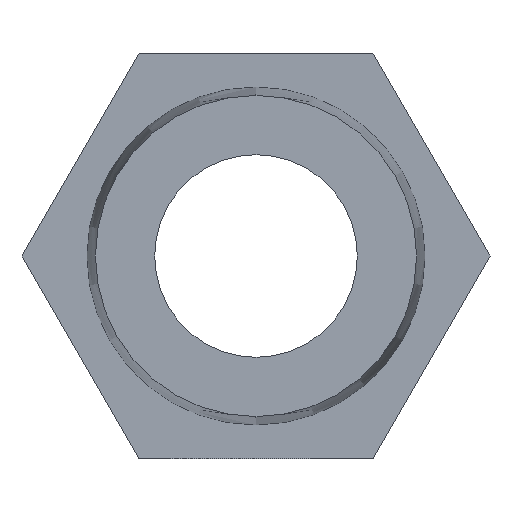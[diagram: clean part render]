
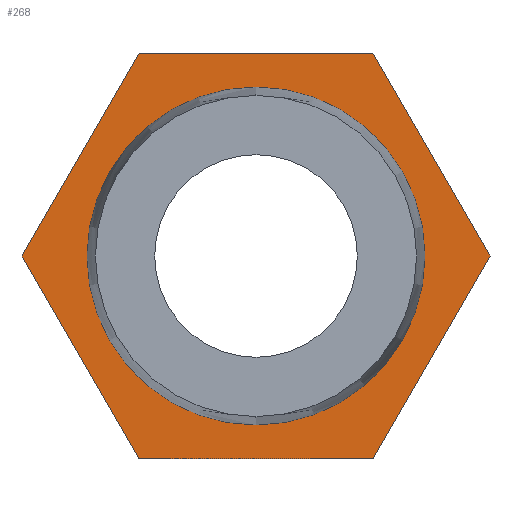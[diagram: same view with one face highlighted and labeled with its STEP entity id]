
A CAD part, front view. The second image highlights one B-rep face of the part: STEP entity #268.
In plain terms, the highlighted planar face has unit normal (0, -1, 0).
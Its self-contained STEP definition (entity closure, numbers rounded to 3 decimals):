
#3 = AXIS2_PLACEMENT_3D ( 'NONE', #528, #795, #290 ) ;
#6 = VERTEX_POINT ( 'NONE', #632 ) ;
#10 = FACE_BOUND ( 'NONE', #827, .T. ) ;
#38 = DIRECTION ( 'NONE',  ( 0., 0., 1. ) ) ;
#92 = ORIENTED_EDGE ( 'NONE', *, *, #823, .F. ) ;
#93 = CARTESIAN_POINT ( 'NONE',  ( -3.464, 4., 6. ) ) ;
#121 = VECTOR ( 'NONE', #1031, 1000. ) ;
#122 = VERTEX_POINT ( 'NONE', #322 ) ;
#128 = LINE ( 'NONE', #293, #652 ) ;
#129 = DIRECTION ( 'NONE',  ( 0.5, 0., 0.866 ) ) ;
#150 = VERTEX_POINT ( 'NONE', #1116 ) ;
#170 = VERTEX_POINT ( 'NONE', #656 ) ;
#212 = VECTOR ( 'NONE', #995, 1000. ) ;
#249 = VECTOR ( 'NONE', #313, 1000. ) ;
#268 = ADVANCED_FACE ( 'NONE', ( #10, #1056 ), #275, .F. ) ;
#275 = PLANE ( 'NONE',  #1102 ) ;
#277 = EDGE_LOOP ( 'NONE', ( #92, #412, #1055, #395, #417, #441 ) ) ;
#290 = DIRECTION ( 'NONE',  ( 0., 0., 1. ) ) ;
#293 = CARTESIAN_POINT ( 'NONE',  ( -3.464, 4., 6. ) ) ;
#306 = DIRECTION ( 'NONE',  ( 0., 1., 0. ) ) ;
#313 = DIRECTION ( 'NONE',  ( -0.5, 0., 0.866 ) ) ;
#322 = CARTESIAN_POINT ( 'NONE',  ( 3.464, 4., -6. ) ) ;
#341 = EDGE_CURVE ( 'NONE', #122, #150, #874, .T. ) ;
#349 = VERTEX_POINT ( 'NONE', #431 ) ;
#395 = ORIENTED_EDGE ( 'NONE', *, *, #633, .F. ) ;
#405 = LINE ( 'NONE', #844, #249 ) ;
#412 = ORIENTED_EDGE ( 'NONE', *, *, #830, .F. ) ;
#417 = ORIENTED_EDGE ( 'NONE', *, *, #341, .F. ) ;
#431 = CARTESIAN_POINT ( 'NONE',  ( 3.464, 4., 6. ) ) ;
#441 = ORIENTED_EDGE ( 'NONE', *, *, #1054, .F. ) ;
#452 = VECTOR ( 'NONE', #129, 1000. ) ;
#458 = LINE ( 'NONE', #805, #452 ) ;
#472 = EDGE_CURVE ( 'NONE', #170, #885, #690, .T. ) ;
#490 = VECTOR ( 'NONE', #811, 1000. ) ;
#504 = DIRECTION ( 'NONE',  ( 0., 0., 1. ) ) ;
#521 = EDGE_CURVE ( 'NONE', #6, #735, #458, .T. ) ;
#528 = CARTESIAN_POINT ( 'NONE',  ( 0., 4., 0. ) ) ;
#581 = CIRCLE ( 'NONE', #880, 5.004 ) ;
#600 = ORIENTED_EDGE ( 'NONE', *, *, #472, .T. ) ;
#613 = CARTESIAN_POINT ( 'NONE',  ( 6.928, 4., 0. ) ) ;
#632 = CARTESIAN_POINT ( 'NONE',  ( -6.928, 4., 0. ) ) ;
#633 = EDGE_CURVE ( 'NONE', #150, #6, #405, .T. ) ;
#652 = VECTOR ( 'NONE', #724, 1000. ) ;
#656 = CARTESIAN_POINT ( 'NONE',  ( 0., 4., -5.004 ) ) ;
#657 = CARTESIAN_POINT ( 'NONE',  ( 0., 4., 5.004 ) ) ;
#662 = ORIENTED_EDGE ( 'NONE', *, *, #788, .T. ) ;
#690 = CIRCLE ( 'NONE', #3, 5.004 ) ;
#724 = DIRECTION ( 'NONE',  ( 1., 0., 0. ) ) ;
#735 = VERTEX_POINT ( 'NONE', #93 ) ;
#766 = CARTESIAN_POINT ( 'NONE',  ( 6.928, 4., 0. ) ) ;
#788 = EDGE_CURVE ( 'NONE', #885, #170, #581, .T. ) ;
#795 = DIRECTION ( 'NONE',  ( 0., 1., 0. ) ) ;
#805 = CARTESIAN_POINT ( 'NONE',  ( -6.928, 4., 0. ) ) ;
#811 = DIRECTION ( 'NONE',  ( 0.5, 0., -0.866 ) ) ;
#823 = EDGE_CURVE ( 'NONE', #349, #922, #994, .T. ) ;
#827 = EDGE_LOOP ( 'NONE', ( #662, #600 ) ) ;
#830 = EDGE_CURVE ( 'NONE', #735, #349, #128, .T. ) ;
#844 = CARTESIAN_POINT ( 'NONE',  ( -3.464, 4., -6. ) ) ;
#855 = CARTESIAN_POINT ( 'NONE',  ( 3.464, 4., -6. ) ) ;
#874 = LINE ( 'NONE', #855, #121 ) ;
#880 = AXIS2_PLACEMENT_3D ( 'NONE', #1071, #306, #38 ) ;
#885 = VERTEX_POINT ( 'NONE', #657 ) ;
#909 = CARTESIAN_POINT ( 'NONE',  ( 6.928, 4., 0. ) ) ;
#922 = VERTEX_POINT ( 'NONE', #766 ) ;
#994 = LINE ( 'NONE', #1073, #490 ) ;
#995 = DIRECTION ( 'NONE',  ( -0.5, 0., -0.866 ) ) ;
#1009 = LINE ( 'NONE', #909, #212 ) ;
#1031 = DIRECTION ( 'NONE',  ( -1., 0., 0. ) ) ;
#1054 = EDGE_CURVE ( 'NONE', #922, #122, #1009, .T. ) ;
#1055 = ORIENTED_EDGE ( 'NONE', *, *, #521, .F. ) ;
#1056 = FACE_OUTER_BOUND ( 'NONE', #277, .T. ) ;
#1071 = CARTESIAN_POINT ( 'NONE',  ( 0., 4., 0. ) ) ;
#1073 = CARTESIAN_POINT ( 'NONE',  ( 3.464, 4., 6. ) ) ;
#1102 = AXIS2_PLACEMENT_3D ( 'NONE', #613, #1133, #504 ) ;
#1116 = CARTESIAN_POINT ( 'NONE',  ( -3.464, 4., -6. ) ) ;
#1133 = DIRECTION ( 'NONE',  ( 0., 1., 0. ) ) ;
